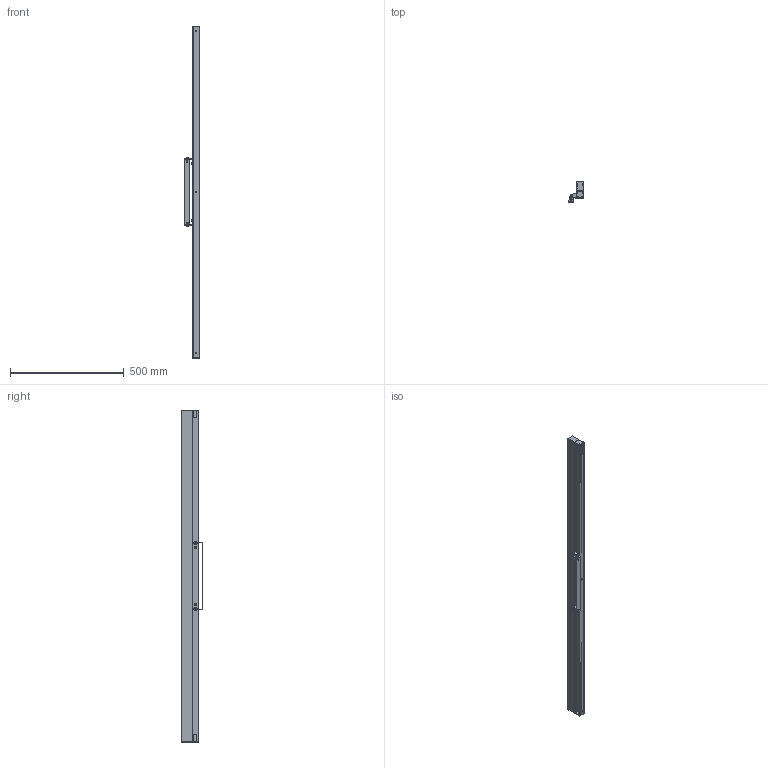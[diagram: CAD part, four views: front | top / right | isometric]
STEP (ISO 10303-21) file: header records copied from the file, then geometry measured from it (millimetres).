
FILE_DESCRIPTION(/* description */ ('Unknown'),/* implementation_level */ '2;1');
FILE_NAME(/* name */ '98845',/* time_stamp */ '2023-02-07T08:13:32-05:00',/* author */ ('Unknown'),/* organization */ ('Unknown'),/* preprocessor_version */ 'ST-DEVELOPER v18.1',/* originating_system */ 'Solid Edge',/* authorisation */ 'Unknown');
FILE_SCHEMA (('AUTOMOTIVE_DESIGN {1 0 10303 214 3 1 1}'));
Length unit declared in the file: millimetre
Products named in the file (11): CONTROCASSA WALL 2017; L-PR0023; L-PR0168; LED-VIT183; LED-RON001; LED-RON002; LED-DAD026; LED-TAP136; LED-STA508; LED-STA507; LED-VIT002
Assembly tree (26 placements, depth 2):
  CONTROCASSA WALL 2017
    L-PR0023
    L-PR0168
    LED-VIT183  x4
    LED-RON001  x2
    LED-RON002  x2
    LED-DAD026  x4
    LED-TAP136  x2
    LED-STA508
    LED-STA507
    LED-VIT002  x8
Bounding box: 64.75 x 91 x 1457 mm (x, y, z)
Volume: 590533.2 mm3; surface area: 726203.7 mm2
Topology: 26 solids, 26 shells, 1536 faces, 3819 edges, 2296 vertices
Faces by surface type: plane 715, cylinder 517, torus 164, sphere 64, cone 60, bspline 16
Full cylindrical faces by diameter (mm): 3 x8, 3.2 x8, 3.422 x4, 3.98 x4, 4 x10, 4.2 x6, 4.5 x2, 6 x5, 7 x4, 7.9 x2, 9 x2
Entity records: 22798 total; most frequent: CARTESIAN_POINT 4740, ORIENTED_EDGE 3482, DIRECTION 3448, EDGE_CURVE 1741, AXIS2_PLACEMENT_3D 1193, VERTEX_POINT 1149, LINE 1062, VECTOR 1062
